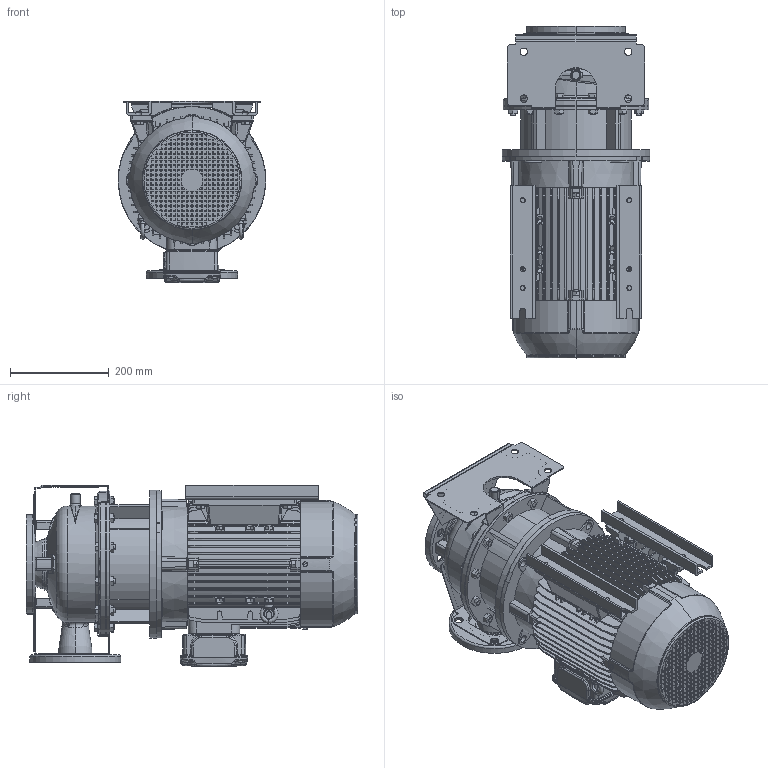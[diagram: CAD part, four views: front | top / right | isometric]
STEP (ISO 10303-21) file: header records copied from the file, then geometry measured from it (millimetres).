
FILE_DESCRIPTION (( 'STEP AP214' ), '1' );
FILE_NAME ('3LS 65-160_9.2_(132M)_W21.STEP', '2026-04-27T06:48:58', ( '' ), ( '' ), 'SwSTEP 2.0', 'SolidWorks 2024', '' );
FILE_SCHEMA (( 'AUTOMOTIVE_DESIGN' ));
Length unit declared in the file: inch
Products named in the file (4): 132M ALIE3_W21T_B35; 65-160_9_2_ie2_STEP; 3LS 65-160_9.2_(132M)_W21; Bolt & Washer M10 x 20.STEP
Assembly tree (6 placements, depth 2):
  3LS 65-160_9.2_(132M)_W21
    65-160_9_2_ie2_STEP
    132M ALIE3_W21T_B35
    Bolt & Washer M10 x 20.STEP  x4
Bounding box: 300 x 673.8 x 368 mm (x, y, z)
Volume: 28020619.9 mm3; surface area: 2270623.5 mm2
Topology: 18 solids, 18 shells, 4364 faces, 11392 edges, 7411 vertices
Faces by surface type: plane 2848, cylinder 942, torus 218, bspline 173, cone 151, sphere 32
Entity records: 149479 total; most frequent: CARTESIAN_POINT 45246, ORIENTED_EDGE 22336, DIRECTION 20412, EDGE_CURVE 11168, VECTOR 7892, LINE 7892, VERTEX_POINT 7285, AXIS2_PLACEMENT_3D 6260
